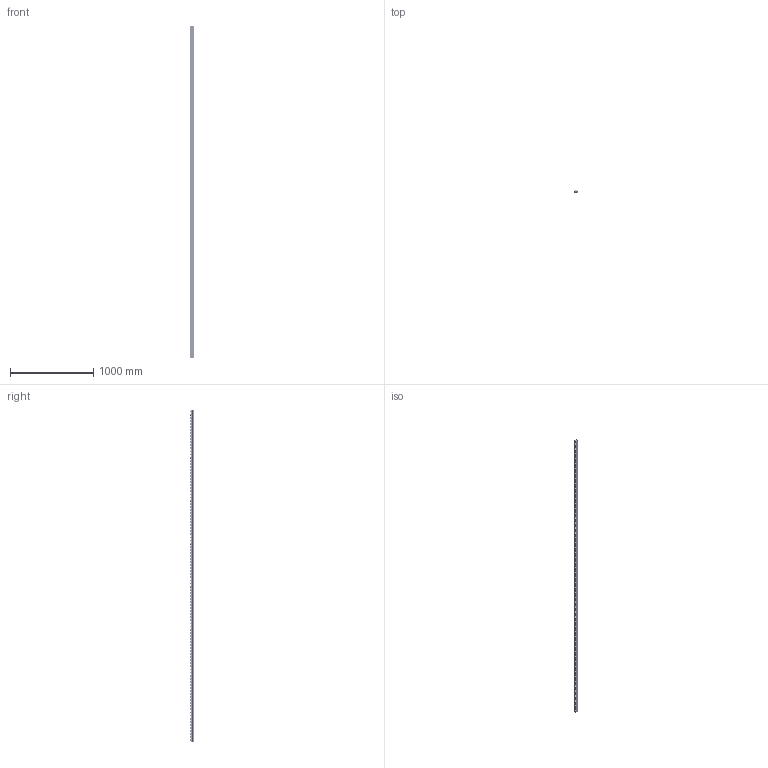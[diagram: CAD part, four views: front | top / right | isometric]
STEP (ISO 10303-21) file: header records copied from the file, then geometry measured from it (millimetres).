
FILE_DESCRIPTION (( 'STEP AP214' ), '1' );
FILE_NAME ('990-002-4000.step', '2022-09-28T08:49:47', ( '' ), ( '' ), 'SwSTEP 2.0', 'SolidWorks 2021', '' );
FILE_SCHEMA (( 'AUTOMOTIVE_DESIGN' ));
Length unit declared in the file: millimetre
Products named in the file (1): 990-002-4000
Bounding box: 41 x 44.99 x 4000 mm (x, y, z)
Volume: 2044599.3 mm3; surface area: 1893533.7 mm2
Topology: 325 solids, 325 shells, 7420 faces, 20958 edges, 13972 vertices
Faces by surface type: plane 4572, cylinder 2200, bspline 648
Full cylindrical faces by diameter (mm): 3 x216, 6 x648, 30 x108, 33 x108
Entity records: 334432 total; most frequent: CARTESIAN_POINT 61575, DIRECTION 38904, ORIENTED_EDGE 38028, EDGE_CURVE 19014, AXIS2_PLACEMENT_3D 14413, VERTEX_POINT 13756, EDGE_LOOP 10442, VECTOR 10078
